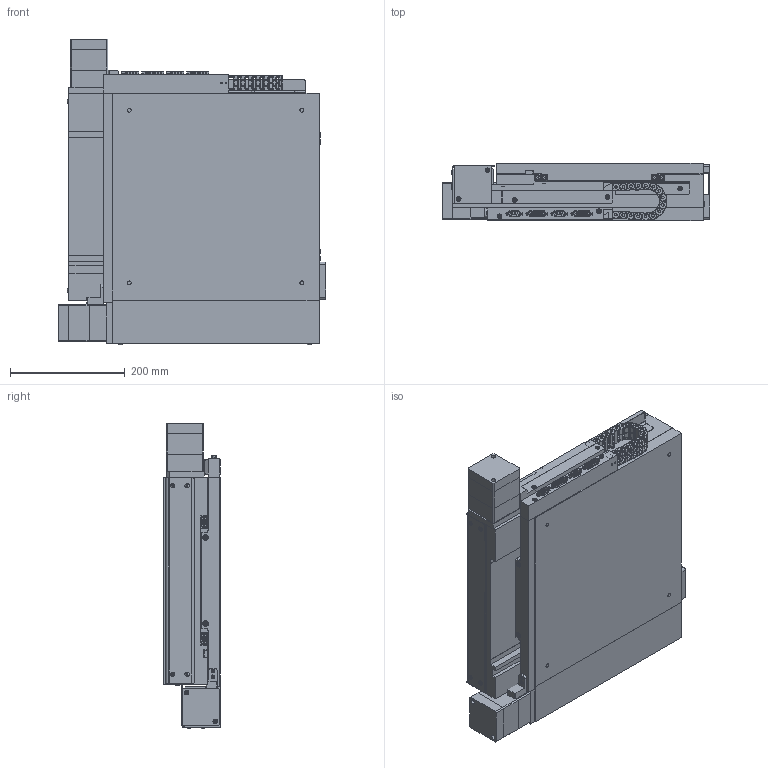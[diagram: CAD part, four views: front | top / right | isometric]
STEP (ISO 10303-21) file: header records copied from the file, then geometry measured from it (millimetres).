
FILE_DESCRIPTION (( 'STEP AP214' ), '1' );
FILE_NAME ('GXY-240-Rotary Encoder-EXPORT.STEP', '2025-07-08T14:12:12', ( 'lab' ), ( '' ), 'SwSTEP 2.0', 'SolidWorks 2018', '' );
FILE_SCHEMA (( 'AUTOMOTIVE_DESIGN' ));
Length unit declared in the file: millimetre
Products named in the file (16): 1000008_file_export4; 1000007_file_export13; 1000013_file_export40; 1000009_file_export28; 1000006_file_export16; GXY-240-Rotary Encoder-EXPORT; 1000004_file_export11; 1000015; 1000010_file_export17; 1000003_file_export5; 1000002_file_export18; 1000016; 1000011_file_export38; 1000014_file_export53; 1000012_file_export41; 1000001_file_export7
Assembly tree (49 placements, depth 2):
  GXY-240-Rotary Encoder-EXPORT
    1000001_file_export7
    1000002_file_export18
    1000003_file_export5
    1000004_file_export11  x2
    1000006_file_export16  x6
    1000007_file_export13
    1000008_file_export4
    1000009_file_export28  x4
    1000010_file_export17
    1000011_file_export38  x15
    1000012_file_export41  x2
    1000013_file_export40  x2
    1000014_file_export53  x8
    1000015  x2
    1000016  x2
Bounding box: 466 x 99 x 532.14 mm (x, y, z)
Volume: 17259665.3 mm3; surface area: 1842851.6 mm2
Topology: 165 solids, 165 shells, 5187 faces, 12540 edges, 7826 vertices
Faces by surface type: plane 3151, cylinder 1310, cone 358, bspline 340, torus 28
Entity records: 89583 total; most frequent: CARTESIAN_POINT 19382, DIRECTION 12899, ORIENTED_EDGE 12476, EDGE_CURVE 6238, AXIS2_PLACEMENT_3D 4332, VECTOR 4235, LINE 4235, VERTEX_POINT 3855
